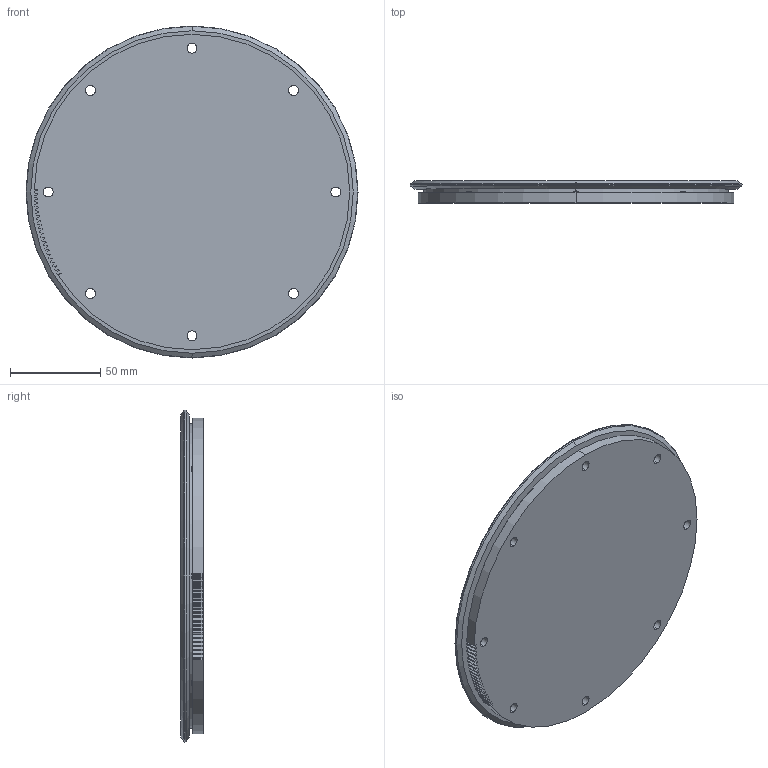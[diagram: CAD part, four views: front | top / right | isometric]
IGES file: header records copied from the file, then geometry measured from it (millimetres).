
Start section: 3D InterOp IGES (v. 2020 1.0.1), Spatial Corp. Copyright (c) 1999-2017.
Global section: file name: rd25_159_p.igs; native system: Spatial Corp.; preprocessor: 3D InterOp ACIS/IGES; author: TraceParts; organization: TraceParts S.A.; date: 20220622.101108; units: millimetre
Bounding box: 183.61 x 12.25 x 183.61 mm (x, y, z)
Surface area: 63298.8 mm2 (no closed solid volume)
Topology: 0 solids, 0 shells, 159 faces, 870 edges, 870 vertices
Faces by surface type: extrusion 114, revolution 45
